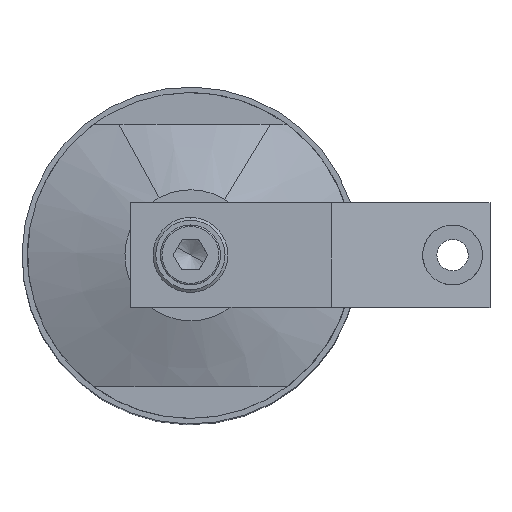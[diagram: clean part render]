
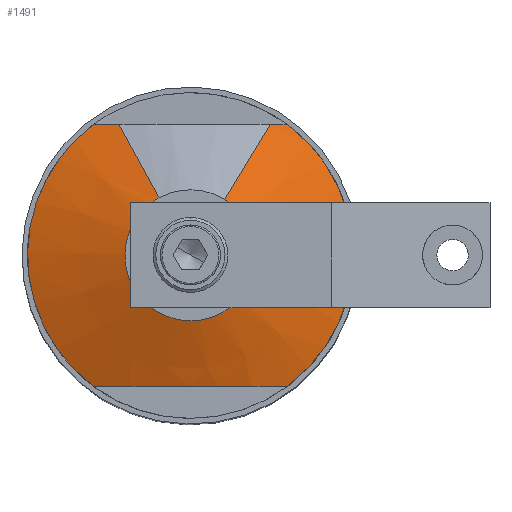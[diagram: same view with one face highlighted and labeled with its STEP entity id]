
A CAD part, top view. The second image highlights one B-rep face of the part: STEP entity #1491.
In plain terms, the highlighted conical face has half-angle 70 degrees and reference radius 17.5 mm.
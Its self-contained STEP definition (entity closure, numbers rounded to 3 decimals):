
#1168=CARTESIAN_POINT('Axis2P3D Location',(0.,0.,171.5)) ;
#1172=CARTESIAN_POINT('Vertex',(8.39,-15.358,171.5)) ;
#1174=CARTESIAN_POINT('Vertex',(17.495,-0.413,171.5)) ;
#1177=CARTESIAN_POINT('Axis2P3D Location',(0.,0.,171.5)) ;
#1181=CARTESIAN_POINT('Vertex',(9.105,14.945,171.5)) ;
#1188=CARTESIAN_POINT('Vertex',(-8.39,15.358,171.5)) ;
#1191=CARTESIAN_POINT('Axis2P3D Location',(0.,0.,171.5)) ;
#1195=CARTESIAN_POINT('Vertex',(-17.495,0.413,171.5)) ;
#1198=CARTESIAN_POINT('Axis2P3D Location',(0.,0.,171.5)) ;
#1202=CARTESIAN_POINT('Vertex',(-9.105,-14.945,171.5)) ;
#1205=CARTESIAN_POINT('Axis2P3D Location',(0.,0.,171.5)) ;
#1378=CARTESIAN_POINT('Vertex',(-43.488,1.026,162.037)) ;
#1381=CARTESIAN_POINT('Axis2P3D Location',(0.,0.,162.037)) ;
#1385=CARTESIAN_POINT('Vertex',(-25.831,35.,162.037)) ;
#1412=CARTESIAN_POINT('Axis2P3D Location',(0.,0.,171.5)) ;
#1417=CARTESIAN_POINT('Axis2P3D Location',(0.,0.,162.037)) ;
#1421=CARTESIAN_POINT('Vertex',(-25.831,-35.,162.037)) ;
#1425=CARTESIAN_POINT('Control Point',(25.831,-35.,162.037)) ;
#1426=CARTESIAN_POINT('Control Point',(23.73,-35.,162.491)) ;
#1427=CARTESIAN_POINT('Control Point',(21.722,-35.,162.895)) ;
#1428=CARTESIAN_POINT('Control Point',(19.8,-35.,163.252)) ;
#1429=CARTESIAN_POINT('Control Point',(15.761,-35.,163.936)) ;
#1430=CARTESIAN_POINT('Control Point',(12.028,-35.,164.425)) ;
#1431=CARTESIAN_POINT('Control Point',(10.072,-35.,164.639)) ;
#1432=CARTESIAN_POINT('Control Point',(5.384,-35.,165.048)) ;
#1433=CARTESIAN_POINT('Control Point',(0.91,-35.,165.181)) ;
#1434=CARTESIAN_POINT('Control Point',(-1.728,-35.,165.17)) ;
#1435=CARTESIAN_POINT('Control Point',(-7.587,-35.,164.946)) ;
#1436=CARTESIAN_POINT('Control Point',(-13.86,-35.,164.246)) ;
#1437=CARTESIAN_POINT('Control Point',(-17.491,-35.,163.71)) ;
#1438=CARTESIAN_POINT('Control Point',(-21.459,-35.,162.982)) ;
#1439=CARTESIAN_POINT('Control Point',(-25.831,-35.,162.037)) ;
#1440=CARTESIAN_POINT('Vertex',(25.831,-35.,162.037)) ;
#1443=CARTESIAN_POINT('Axis2P3D Location',(0.,0.,162.037)) ;
#1447=CARTESIAN_POINT('Vertex',(25.831,35.,162.037)) ;
#1451=CARTESIAN_POINT('Control Point',(21.324,35.,162.952)) ;
#1452=CARTESIAN_POINT('Control Point',(22.769,35.,162.679)) ;
#1453=CARTESIAN_POINT('Control Point',(24.269,35.,162.374)) ;
#1454=CARTESIAN_POINT('Control Point',(25.831,35.,162.037)) ;
#1455=CARTESIAN_POINT('Vertex',(21.324,35.,162.952)) ;
#1458=CARTESIAN_POINT('Line Origine',(15.869,26.047,166.768)) ;
#1463=CARTESIAN_POINT('Line Origine',(-14.622,26.766,166.768)) ;
#1467=CARTESIAN_POINT('Vertex',(-19.121,35.,163.354)) ;
#1471=CARTESIAN_POINT('Control Point',(-19.121,35.,163.354)) ;
#1472=CARTESIAN_POINT('Control Point',(-21.233,35.,162.985)) ;
#1473=CARTESIAN_POINT('Control Point',(-23.46,35.,162.549)) ;
#1474=CARTESIAN_POINT('Control Point',(-25.831,35.,162.037)) ;
#1169=DIRECTION('Axis2P3D Direction',(0.,0.,1.)) ;
#1178=DIRECTION('Axis2P3D Direction',(0.,0.,1.)) ;
#1192=DIRECTION('Axis2P3D Direction',(0.,0.,1.)) ;
#1199=DIRECTION('Axis2P3D Direction',(0.,0.,1.)) ;
#1206=DIRECTION('Axis2P3D Direction',(0.,0.,1.)) ;
#1382=DIRECTION('Axis2P3D Direction',(0.,0.,1.)) ;
#1413=DIRECTION('Axis2P3D Direction',(-0.,-0.,-1.)) ;
#1414=DIRECTION('Axis2P3D XDirection',(-0.479,0.878,0.)) ;
#1418=DIRECTION('Axis2P3D Direction',(0.,0.,-1.)) ;
#1444=DIRECTION('Axis2P3D Direction',(0.,0.,-1.)) ;
#1459=DIRECTION('Vector Direction',(0.489,0.802,-0.342)) ;
#1464=DIRECTION('Vector Direction',(-0.451,0.825,-0.342)) ;
#1170=AXIS2_PLACEMENT_3D('Circle Axis2P3D',#1168,#1169,$) ;
#1179=AXIS2_PLACEMENT_3D('Circle Axis2P3D',#1177,#1178,$) ;
#1193=AXIS2_PLACEMENT_3D('Circle Axis2P3D',#1191,#1192,$) ;
#1200=AXIS2_PLACEMENT_3D('Circle Axis2P3D',#1198,#1199,$) ;
#1207=AXIS2_PLACEMENT_3D('Circle Axis2P3D',#1205,#1206,$) ;
#1383=AXIS2_PLACEMENT_3D('Circle Axis2P3D',#1381,#1382,$) ;
#1415=AXIS2_PLACEMENT_3D('Cone Axis2P3D',#1412,#1413,#1414) ;
#1419=AXIS2_PLACEMENT_3D('Circle Axis2P3D',#1417,#1418,$) ;
#1445=AXIS2_PLACEMENT_3D('Circle Axis2P3D',#1443,#1444,$) ;
#1477=ORIENTED_EDGE('',*,*,#1387,.F.) ;
#1478=ORIENTED_EDGE('',*,*,#1423,.F.) ;
#1479=ORIENTED_EDGE('',*,*,#1442,.F.) ;
#1480=ORIENTED_EDGE('',*,*,#1449,.F.) ;
#1481=ORIENTED_EDGE('',*,*,#1457,.F.) ;
#1482=ORIENTED_EDGE('',*,*,#1462,.F.) ;
#1483=ORIENTED_EDGE('',*,*,#1183,.F.) ;
#1484=ORIENTED_EDGE('',*,*,#1176,.F.) ;
#1485=ORIENTED_EDGE('',*,*,#1209,.F.) ;
#1486=ORIENTED_EDGE('',*,*,#1204,.F.) ;
#1487=ORIENTED_EDGE('',*,*,#1197,.F.) ;
#1488=ORIENTED_EDGE('',*,*,#1469,.T.) ;
#1489=ORIENTED_EDGE('',*,*,#1475,.T.) ;
#1460=VECTOR('Line Direction',#1459,1.) ;
#1465=VECTOR('Line Direction',#1464,1.) ;
#1491=ADVANCED_FACE('PartBody',(#1490),#1416,.T.) ;
#1424=B_SPLINE_CURVE_WITH_KNOTS('',5,(#1425,#1426,#1427,#1428,#1429,#1430,#1431,#1432,#1433,#1434,#1435,#1436,#1437,#1438,#1439),.UNSPECIFIED.,.F.,.U.,(6,3,3,3,6),(0.,23.176,50.714,91.025,139.251),.UNSPECIFIED.) ;
#1450=B_SPLINE_CURVE_WITH_KNOTS('',3,(#1451,#1452,#1453,#1454),.UNSPECIFIED.,.F.,.U.,(4,4),(0.,10.338),.UNSPECIFIED.) ;
#1470=B_SPLINE_CURVE_WITH_KNOTS('',3,(#1471,#1472,#1473,#1474),.UNSPECIFIED.,.F.,.U.,(4,4),(0.,15.692),.UNSPECIFIED.) ;
#1171=CIRCLE('generated circle',#1170,17.5) ;
#1180=CIRCLE('generated circle',#1179,17.5) ;
#1194=CIRCLE('generated circle',#1193,17.5) ;
#1201=CIRCLE('generated circle',#1200,17.5) ;
#1208=CIRCLE('generated circle',#1207,17.5) ;
#1384=CIRCLE('generated circle',#1383,43.5) ;
#1420=CIRCLE('generated circle',#1419,43.5) ;
#1446=CIRCLE('generated circle',#1445,43.5) ;
#1416=CONICAL_SURFACE('Cone',#1415,17.5,1.222) ;
#1176=EDGE_CURVE('',#1173,#1175,#1171,.T.) ;
#1183=EDGE_CURVE('',#1175,#1182,#1180,.T.) ;
#1197=EDGE_CURVE('',#1189,#1196,#1194,.T.) ;
#1204=EDGE_CURVE('',#1196,#1203,#1201,.T.) ;
#1209=EDGE_CURVE('',#1203,#1173,#1208,.T.) ;
#1387=EDGE_CURVE('',#1379,#1386,#1384,.F.) ;
#1423=EDGE_CURVE('',#1422,#1379,#1420,.T.) ;
#1442=EDGE_CURVE('',#1441,#1422,#1424,.T.) ;
#1449=EDGE_CURVE('',#1448,#1441,#1446,.T.) ;
#1457=EDGE_CURVE('',#1456,#1448,#1450,.T.) ;
#1462=EDGE_CURVE('',#1182,#1456,#1461,.T.) ;
#1469=EDGE_CURVE('',#1189,#1468,#1466,.T.) ;
#1475=EDGE_CURVE('',#1468,#1386,#1470,.T.) ;
#1476=EDGE_LOOP('',(#1477,#1478,#1479,#1480,#1481,#1482,#1483,#1484,#1485,#1486,#1487,#1488,#1489)) ;
#1490=FACE_OUTER_BOUND('',#1476,.T.) ;
#1461=LINE('Line',#1458,#1460) ;
#1466=LINE('Line',#1463,#1465) ;
#1173=VERTEX_POINT('',#1172) ;
#1175=VERTEX_POINT('',#1174) ;
#1182=VERTEX_POINT('',#1181) ;
#1189=VERTEX_POINT('',#1188) ;
#1196=VERTEX_POINT('',#1195) ;
#1203=VERTEX_POINT('',#1202) ;
#1379=VERTEX_POINT('',#1378) ;
#1386=VERTEX_POINT('',#1385) ;
#1422=VERTEX_POINT('',#1421) ;
#1441=VERTEX_POINT('',#1440) ;
#1448=VERTEX_POINT('',#1447) ;
#1456=VERTEX_POINT('',#1455) ;
#1468=VERTEX_POINT('',#1467) ;
